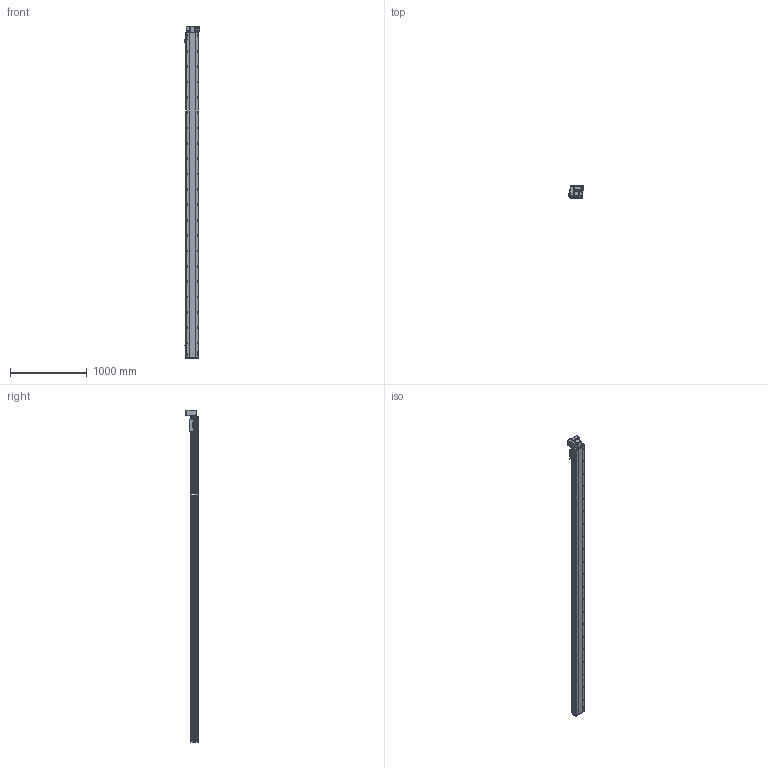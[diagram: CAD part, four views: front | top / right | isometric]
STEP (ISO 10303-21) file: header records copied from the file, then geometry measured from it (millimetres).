
FILE_DESCRIPTION (( 'STEP AP214' ), '1' );
FILE_NAME ('RTB17S-XX-3950-LW-M40-C4.STEP', '2025-12-11T07:28:13', ( '' ), ( '' ), 'SwSTEP 2.0', 'SolidWorks 2018', '' );
FILE_SCHEMA (( 'AUTOMOTIVE_DESIGN' ));
Length unit declared in the file: millimetre
Products named in the file (14): RTB14-L-017P^RTB17S-LW-々湍釱蚾饜-400W_RTB17S-XX-XX-LW-M40-C4; RTB17S-L-004佪裝蹟譫蟀諉釱^RTB17S-XX-XX-LW-M40-C4; RTB14-L-018P^RTB17S-LW-々湍釱蚾饜-400W_RTB17S-XX-XX-LW-M40-C4; RTB17S-XX-3950-LW-M40-C4; RTH13-BL-012覜茼え俋离^RTB17S-XX-XX-LW-M40-C4; RTB17S-LW-々湍釱蚾饜-400W^RTB17S-XX-XX-LW-M40-C4; RTB17S-L-014-T20--々湍釱^RTB17S-LW-々湍釱蚾饜-400W_RTB17S-XX-XX-LW-M40-C4; 400W侜督萇儂^RTB17S-XX-XX-LW-M40-C4; RTB17S-L-001耜醱啣^RTB17S-XX-XX-LW-M40-C4; RTB14-L-008-M20--萇儂啣^RTB17S-LW-々湍釱蚾饜-400W_RTB17S-XX-XX-LW-M40-C4; OMRON EE-SX672 传感器^RTB17S-XX-XX-LW-M40-C4; RTB17S-L-007奻裔^RTB17S-XX-XX-LW-M40-C4; RTB14-L-005P--轴承塑胶压盖^RTB17S-LW-皮带座装配-400W_RTB17S-XX-XX-LW-M40-C4; RTB17-R-011菁釱^RTB17S-XX-XX-LW-M40-C4
Assembly tree (16 placements, depth 3):
  RTB17S-XX-3950-LW-M40-C4
    RTB17-R-011菁釱^RTB17S-XX-XX-LW-M40-C4
    RTB17S-L-007奻裔^RTB17S-XX-XX-LW-M40-C4
    OMRON EE-SX672 传感器^RTB17S-XX-XX-LW-M40-C4  x3
    RTB17S-L-001耜醱啣^RTB17S-XX-XX-LW-M40-C4
    400W侜督萇儂^RTB17S-XX-XX-LW-M40-C4
    RTB17S-L-004佪裝蹟譫蟀諉釱^RTB17S-XX-XX-LW-M40-C4
    RTH13-BL-012覜茼え俋离^RTB17S-XX-XX-LW-M40-C4
    RTB17S-LW-々湍釱蚾饜-400W^RTB17S-XX-XX-LW-M40-C4
      RTB17S-L-014-T20--々湍釱^RTB17S-LW-々湍釱蚾饜-400W_RTB17S-XX-XX-LW-M40-C4
      RTB14-L-005P--轴承塑胶压盖^RTB17S-LW-皮带座装配-400W_RTB17S-XX-XX-LW-M40-C4
      RTB14-L-008-M20--萇儂啣^RTB17S-LW-々湍釱蚾饜-400W_RTB17S-XX-XX-LW-M40-C4
      RTB14-L-017P^RTB17S-LW-々湍釱蚾饜-400W_RTB17S-XX-XX-LW-M40-C4  x2
      RTB14-L-018P^RTB17S-LW-々湍釱蚾饜-400W_RTB17S-XX-XX-LW-M40-C4
Bounding box: 186 x 160.5 x 4322.5 mm (x, y, z)
Volume: 36431333.9 mm3; surface area: 4121474.4 mm2
Topology: 15 solids, 15 shells, 2445 faces, 6897 edges, 4509 vertices
Faces by surface type: plane 1098, cylinder 899, bspline 301, cone 139, torus 8
Entity records: 74153 total; most frequent: CARTESIAN_POINT 21302, ORIENTED_EDGE 10638, DIRECTION 9746, EDGE_CURVE 5319, VERTEX_POINT 3497, AXIS2_PLACEMENT_3D 3427, LINE 2892, VECTOR 2892
